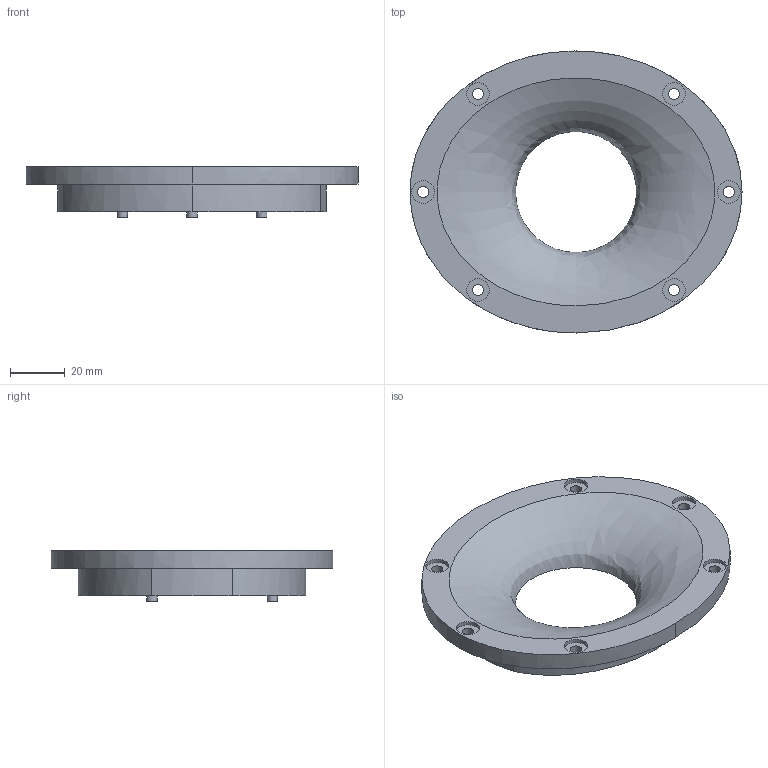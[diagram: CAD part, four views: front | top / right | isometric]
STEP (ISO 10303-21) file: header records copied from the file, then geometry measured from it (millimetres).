
FILE_DESCRIPTION(/* description */ (''),/* implementation_level */ '2;1');
FILE_NAME(/* name */ '4x.65 vB 82 nops.step',/* time_stamp */ '2023-05-21T16:30:59-06:00',/* author */ (''),/* organization */ (''),/* preprocessor_version */ 'ST-DEVELOPER v19.2',/* originating_system */ 'Autodesk Translation Framework v12.4.0.73',/* authorisation */ '');
FILE_SCHEMA (('AUTOMOTIVE_DESIGN { 1 0 10303 214 3 1 1 }'));
Length unit declared in the file: inch
Products named in the file (1): 4x.65 vB 82 TW29
Bounding box: 121.41 x 103.12 x 18.54 mm (x, y, z)
Volume: 80442.7 mm3; surface area: 23899.3 mm2
Topology: 1 solids, 1 shells, 292 faces, 777 edges, 518 vertices
Faces by surface type: bspline 159, plane 114, cylinder 19
Full cylindrical faces by diameter (mm): 2.794 x2, 3.81 x3, 4.064 x6, 8.382 x6
Entity records: 12840 total; most frequent: CARTESIAN_POINT 6580, ORIENTED_EDGE 1554, EDGE_CURVE 777, DIRECTION 759, VERTEX_POINT 518, LINE 419, VECTOR 419, EDGE_LOOP 337
